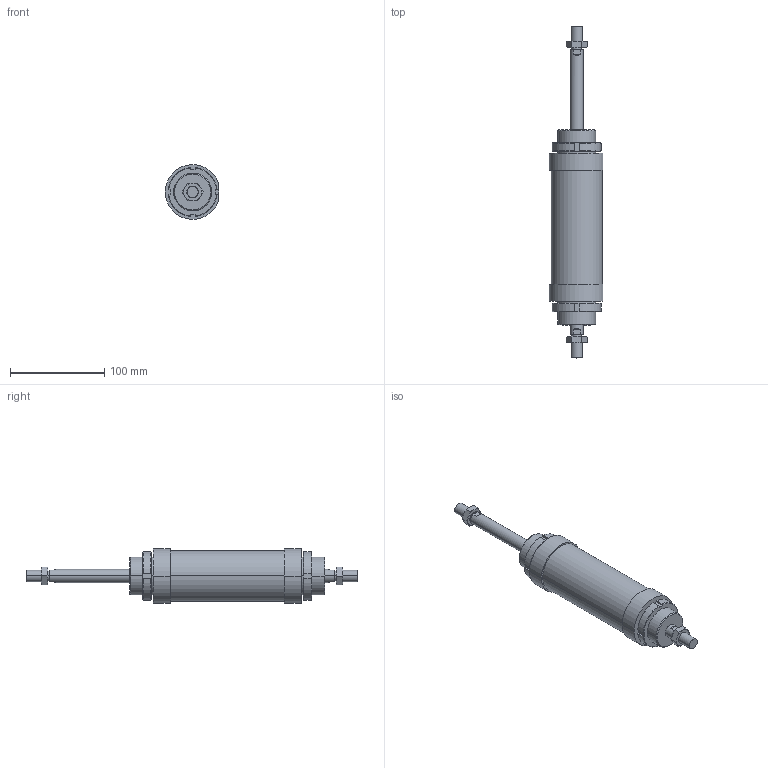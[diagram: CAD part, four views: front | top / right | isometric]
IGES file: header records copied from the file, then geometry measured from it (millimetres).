
Global section: file name: No Iges File Name specified; native system: AutoDesk Inventor R6.0; preprocessor: AutoDesk Inventor Iges Exporter R6.0; author: No Author specified; organization: No Organization specified; date: 20030403.072956; units: millimetre
Bounding box: 56.6 x 352 x 57.85 mm (x, y, z)
Volume: 470933.2 mm3; surface area: 75201.6 mm2
Topology: 6 solids, 6 shells, 182 faces, 424 edges, 264 vertices
Faces by surface type: plane 66, cone 52, bspline 30, cylinder 28, revolution 6
